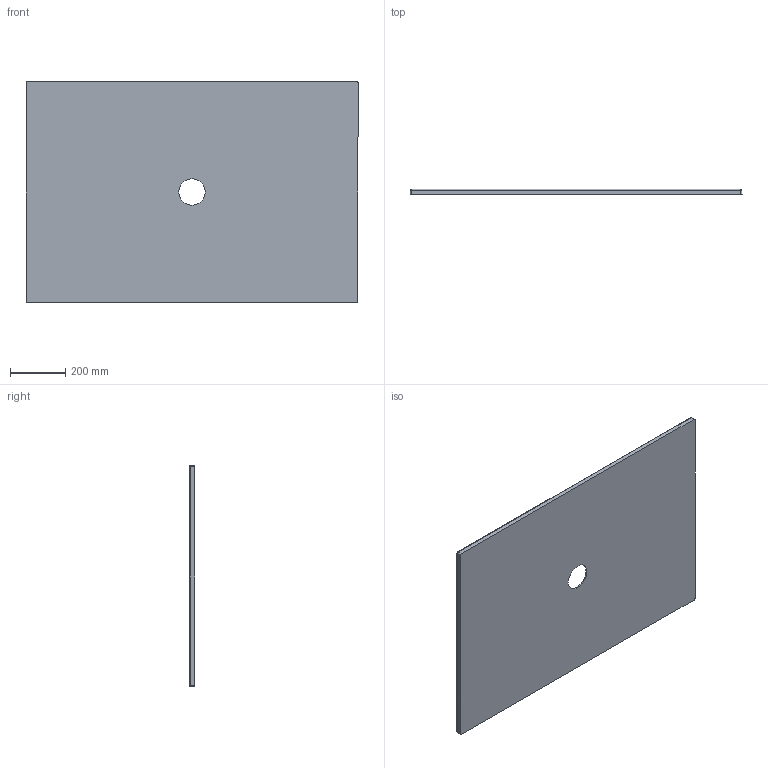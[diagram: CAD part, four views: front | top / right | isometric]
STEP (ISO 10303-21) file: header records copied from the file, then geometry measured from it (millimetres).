
FILE_DESCRIPTION (( 'STEP AP203' ), '1' );
FILE_NAME ('SDPD12008020.STEP', '2023-03-31T10:39:40', ( '' ), ( '' ), 'SwSTEP 2.0', 'SolidWorks 2023', '' );
FILE_SCHEMA (( 'CONFIG_CONTROL_DESIGN' ));
Length unit declared in the file: millimetre
Products named in the file (1): SDPD12008020
Bounding box: 1200 x 20 x 800 mm (x, y, z)
Volume: 15987305.4 mm3; surface area: 1976692.3 mm2
Topology: 1 solids, 1 shells, 26 faces, 62 edges, 40 vertices
Faces by surface type: cylinder 9, plane 8, sphere 4, bspline 2, torus 2, cone 1
Full cylindrical faces by diameter (mm): 95 x1
Entity records: 2496 total; most frequent: CARTESIAN_POINT 1880, DIRECTION 108, ORIENTED_EDGE 104, EDGE_CURVE 52, AXIS2_PLACEMENT_3D 44, EDGE_LOOP 36, VERTEX_POINT 36, FACE_OUTER_BOUND 31
